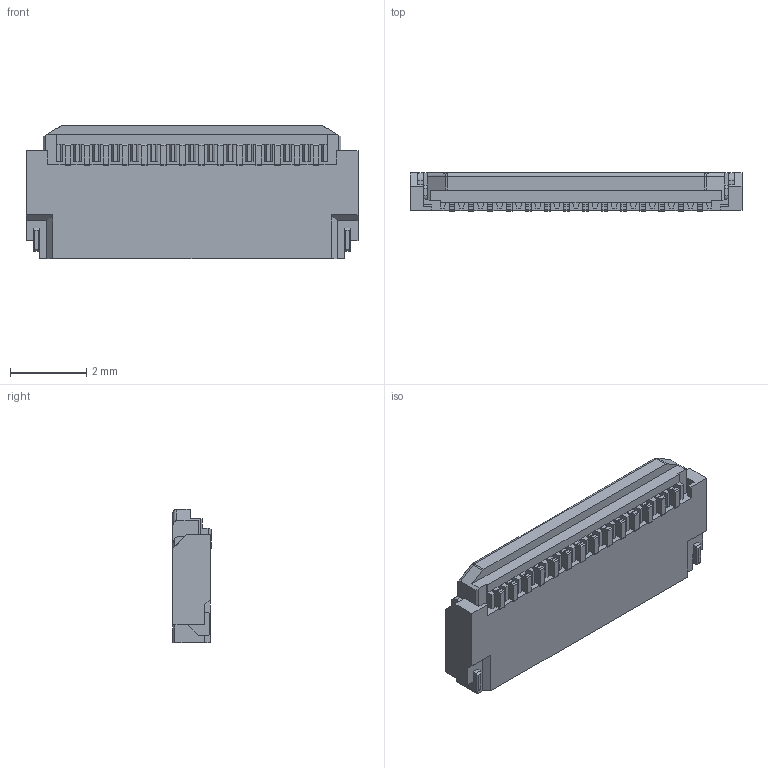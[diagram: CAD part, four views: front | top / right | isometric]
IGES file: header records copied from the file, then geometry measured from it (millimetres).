
Start section: SolidWorks IGES file using analytic representation for surfaces
Bounding box: 8.7 x 1 x 3.5 mm (x, y, z)
Surface area: 90.8 mm2 (no closed solid volume)
Topology: 0 solids, 0 shells, 349 faces, 2378 edges, 2374 vertices
Faces by surface type: bspline 280, revolution 69
